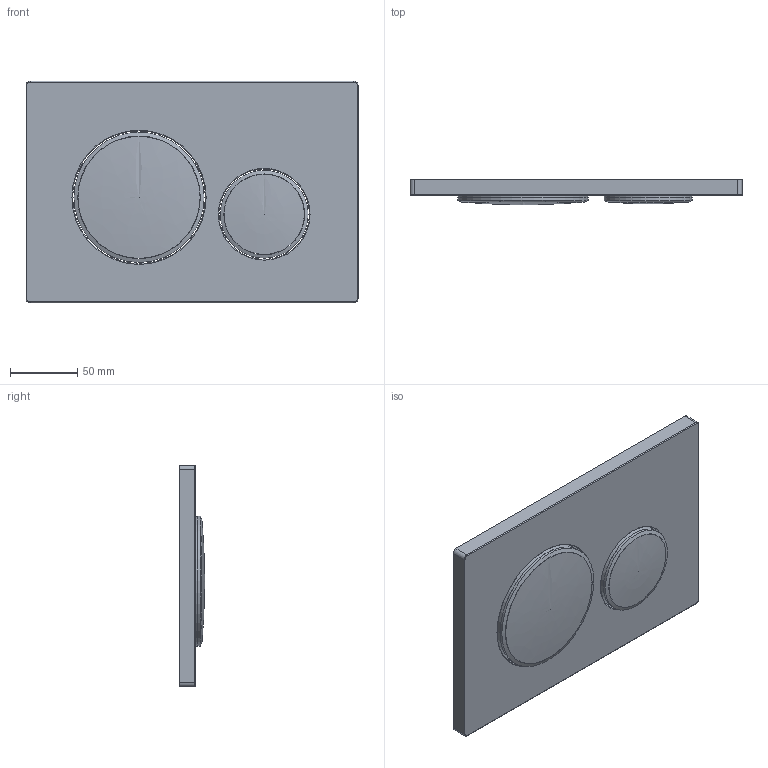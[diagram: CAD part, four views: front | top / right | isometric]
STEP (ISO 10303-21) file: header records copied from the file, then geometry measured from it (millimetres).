
FILE_DESCRIPTION(/* description */ (''),/* implementation_level */ '2;1');
FILE_NAME(/* name */ 'C:\Planerdaten\Export PLA\115.882.01.1\stp\115882.stp',/* time_stamp */ '2021-10-08T09:41:08+02:00',/* author */ ('JANAN'),/* organization */ (''),/* preprocessor_version */ 'ST-DEVELOPER v16.13',/* originating_system */ 'Autodesk Inventor 2018',/* authorisation */ '');
FILE_SCHEMA (('AUTOMOTIVE_DESIGN { 1 0 10303 214 3 1 1 }'));
Length unit declared in the file: millimetre
Products named in the file (1): tmpA1FF.tmp
Bounding box: 246 x 18.6 x 164 mm (x, y, z)
Volume: 532657.4 mm3; surface area: 125613.8 mm2
Topology: 5 solids, 5 shells, 66 faces, 125 edges, 80 vertices
Faces by surface type: cylinder 31, plane 25, torus 6, bspline 2, cone 2
Full cylindrical faces by diameter (mm): 6 x1, 58.2 x1, 58.4 x1, 59.5 x2, 59.8 x2, 61.6 x1, 61.8 x1, 64.9 x1, 65 x1, 67 x1, 89.4 x1, 89.6 x1, 90.5 x2, 90.8 x2, 93 x1, 93.2 x1, 96.2 x1, 96.4 x1, 98.4 x1
Entity records: 1671 total; most frequent: CARTESIAN_POINT 291, DIRECTION 290, ORIENTED_EDGE 184, AXIS2_PLACEMENT_3D 135, EDGE_LOOP 114, EDGE_CURVE 92, VERTEX_POINT 76, STYLED_ITEM 71
